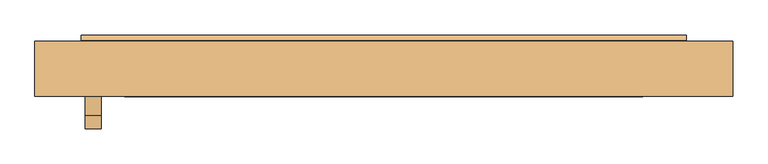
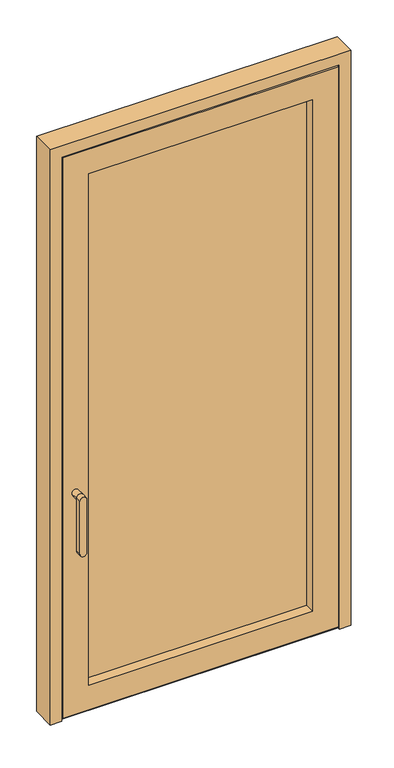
"""IFC4 building model written with IfcOpenShell, lengths in millimetres: door geometry, Jednokrilna vrata__ : Jednokrilna vrata__."""

from ifc_helpers import new_model, si_unit, frame, origin, place, context, project, spatial, polyline, circle_curve, outline, extrude, faceted_brep, source, transform, mapped, element, save
from ifc_brep_helpers import plane_surface, cylinder_surface, advanced_brep


def door_e021cbc1(model_context):
    return source(origin(), model_context, "Body", "SolidModel", [
        advanced_brep(
        [(-437.2528465, -74.992971, 860.1), (-462.2528465, -74.992971, 860.1), (-462.2528465, -74.992971, 660.1), (-437.2528465, -74.992971, 660.1), (-462.2528465, -54.992971, 860.1), (-437.2528465, -54.992971, 860.1), (-437.2528465, -54.992971, 660.1), (-462.2528465, -54.992971, 660.1), (-437.2528465, -24.992971, 860.1), (-462.2528465, -24.992971, 860.1)],
        [
            (0, 1, circle_curve(frame((-449.7528465, -74.992971, 860.1), z_axis=(0.0, -1.0, 0.0), x_axis=(-1.0, 0.0, 0.0)), 12.5)),
            (1, 2),
            (2, 3, circle_curve(frame((-449.7528465, -74.992971, 660.1), z_axis=(0.0, -1.0, 0.0), x_axis=(-1.0, 0.0, 0.0)), 12.5)),
            (3, 0),
            (4, 5, circle_curve(frame((-449.7528465, -54.992971, 860.1), z_axis=(0.0, -1.0, 0.0), x_axis=(-1.0, 0.0, 0.0)), 12.5)),
            (5, 6),
            (6, 7, circle_curve(frame((-449.7528465, -54.992971, 660.1), z_axis=(0.0, 1.0, 0.0), x_axis=(-1.0, 0.0, 0.0)), 12.5)),
            (7, 4),
            (3, 6),
            (5, 0),
            (2, 7),
            (1, 4),
            (5, 4, circle_curve(frame((-449.7528465, -54.992971, 860.1), z_axis=(0.0, -1.0, 0.0), x_axis=(-1.0, 0.0, 0.0)), 12.5)),
            (8, 9, circle_curve(frame((-449.7528465, -24.992971, 860.1), z_axis=(0.0, 1.0, 0.0), x_axis=(-1.0, 0.0, 0.0)), 12.5)),
            (9, 8, circle_curve(frame((-449.7528465, -24.992971, 860.1), z_axis=(0.0, 1.0, 0.0), x_axis=(-1.0, 0.0, 0.0)), 12.5)),
            (8, 5),
            (4, 9),
        ],
        [
            plane_surface(frame((-437.2528465, -74.992971, 860.1), z_axis=(0.0, -1.0, 0.0), x_axis=(0.0, 0.0, -1.0))),
            plane_surface(frame((-437.2528465, -54.992971, 860.1), z_axis=(0.0, 1.0, 0.0), x_axis=(0.0, 0.0, 1.0))),
            plane_surface(frame((-437.2528465, -74.992971, 860.1), z_axis=(1.0, 0.0, 0.0), x_axis=(0.0, 1.0, 0.0))),
            cylinder_surface(frame((-449.7528465, -54.992971, 660.1), z_axis=(0.0, -1.0, 0.0), x_axis=(-1.0, 0.0, 0.0)), 12.5),
            plane_surface(frame((-462.2528465, -74.992971, 660.1), z_axis=(-1.0, 0.0, 0.0), x_axis=(0.0, 1.0, 0.0))),
            cylinder_surface(frame((-449.7528465, -54.992971, 860.1), z_axis=(0.0, -1.0, 0.0), x_axis=(-1.0, 0.0, 0.0)), 12.5),
            plane_surface(frame((-462.2528465, -24.992971, 860.1), z_axis=(0.0, 1.0, 0.0), x_axis=(0.0, 0.0, -1.0))),
            cylinder_surface(frame((-449.7528465, -24.992971, 860.1), z_axis=(0.0, -1.0, 0.0), x_axis=(-1.0, 0.0, 0.0)), 12.5),
        ],
        [
            (0, [[1, 2, 3, 4]]),
            (1, [[5, 6, 7, 8]]),
            (2, [[9, -6, 10, -4]]),
            (3, [[11, -7, -9, -3]]),
            (4, [[12, -8, -11, -2]]),
            (5, [[-10, 13, -12, -1]]),
            (6, [[14, 15]]),
            (7, [[16, -5, 17, -14]]),
            (7, [[-17, -13, -16, -15]]),
        ],
    ),
        extrude(outline(polyline([(-416.0069224, 51.4963646), (416.0069224, 51.4963646), (416.0069224, 11.539569), (-416.0069224, 11.539569), (-416.0069224, 51.4963646)])), frame((0.0, 0.0, 97.4957057), z_axis=(0.0, 0.0, 1.0), x_axis=(1.0, 0.0, 0.0)), (0.0, 0.0, 1.0), 1968.5085885),
        faceted_brep([(416.0069224, 11.5325535, 2066.0069224), (416.0069224, 51.5325535, 2066.0069224), (416.0069224, 51.5325535, 97.4930776), (416.0069224, 11.5325535, 97.4930776), (-416.0069224, 51.5325535, 2066.0069224), (-416.0069224, 51.5325535, 97.4930776), (401.0069241, 51.5325535, 112.4930759), (-401.0069241, 51.5325535, 112.4930759), (-401.0069241, 51.5325535, 2051.0069241), (401.0069241, 51.5325535, 2051.0069241), (-416.0069224, 11.5325535, 97.4930776), (-416.0069224, 11.5325535, 2066.0069224), (401.0069179, 11.5325535, 2051.0069179), (-401.0069179, 11.5325535, 2051.0069179), (-401.0069179, 11.5325535, 112.4930821), (401.0069179, 11.5325535, 112.4930821), (478.6569229, 51.4963646, 34.8430771), (-478.6569229, 51.4963646, 34.8430771), (-478.6569229, 51.4963646, 2128.6569229), (478.6569229, 51.4963646, 2128.6569229), (468.5028465, 51.4963646, 2118.5028465), (-468.5028465, 51.4963646, 2118.5028465), (-468.5028465, 51.4963646, 44.9971535), (468.5028465, 51.4963646, 44.9971535), (478.6569229, -16.4988419, 2128.6569229), (478.6569229, -16.4988419, 34.8430771), (493.5028465, -16.4988419, 19.9971535), (-493.5028465, -16.4988419, 19.9971535), (-493.5028465, -16.4988419, 2143.5028465), (493.5028465, -16.4988419, 2143.5028465), (-478.6569229, -16.4988419, 2128.6569229), (-478.6569229, -16.4988419, 34.8430771), (493.5028465, -24.9999866, 2143.5028465), (493.5028465, -24.9999866, 19.9971535), (-493.5028465, -24.9999866, 2143.5028465), (-493.5028465, -24.9999866, 19.9971535), (401.0069179, -24.9999866, 112.4930821), (-401.0069179, -24.9999866, 112.4930821), (-401.0069179, -24.9999866, 2051.0069179), (401.0069179, -24.9999866, 2051.0069179), (468.5028465, 60.0, 44.9971535), (-468.5028465, 60.0, 44.9971535), (-468.5028465, 60.0, 2118.5028465), (468.5028465, 60.0, 2118.5028465), (401.0069241, 60.0, 2051.0069241), (-401.0069241, 60.0, 2051.0069241), (-401.0069241, 60.0, 112.4930759), (401.0069241, 60.0, 112.4930759)], [[[0, 1, 2, 3]], [[1, 4, 5, 2], [6, 7, 8, 9]], [[3, 2, 5, 10]], [[3, 10, 11, 0], [12, 13, 14, 15]], [[16, 17, 18, 19], [20, 21, 22, 23]], [[19, 24, 25, 16]], [[26, 27, 28, 29], [24, 30, 31, 25]], [[16, 25, 31, 17]], [[29, 32, 33, 26]], [[32, 34, 35, 33], [36, 37, 38, 39]], [[26, 33, 35, 27]], [[10, 5, 4, 11]], [[17, 31, 30, 18]], [[27, 35, 34, 28]], [[11, 4, 1, 0]], [[40, 41, 42, 43], [44, 45, 46, 47]], [[18, 30, 24, 19]], [[28, 34, 32, 29]], [[9, 44, 47, 6]], [[6, 47, 46, 7]], [[43, 20, 23, 40]], [[40, 23, 22, 41]], [[7, 46, 45, 8]], [[41, 22, 21, 42]], [[37, 14, 13, 38]], [[36, 15, 14, 37]], [[39, 12, 15, 36]], [[8, 45, 44, 9]], [[42, 21, 20, 43]], [[38, 13, 12, 39]]]),
        extrude(outline(polyline([(61.0518902, 43.8392915), (53.9268695, 43.8392915), (52.789569, 42.6978701), (52.789569, 33.5925953), (46.657463, 33.5925953), (47.6900084, 27.9186976), (45.1953852, 28.3686565), (41.785658, 28.6424177), (42.7195202, 33.5925953), (39.789569, 33.5925953), (39.789569, 34.8390008), (51.539569, 34.8390008), (51.539569, 44.9930771), (61.6167606, 44.9930771), (70.0932044, 35.9032041), (70.0932044, 33.876672), (68.5932044, 33.876672), (68.5932044, 35.7522222), (61.0518902, 43.8392915)])), frame((-468.5028465, 0.0, 0.0), z_axis=(1.0, 0.0, 0.0), x_axis=(0.0, 1.0, 0.0)), (0.0, 0.0, 1.0), 937.0056931),
        advanced_brep(
        [(-498.4976427, -16.4918976, 10.0), (-498.4976427, -24.992971, 10.0), (-540.0, -24.992971, 10.0), (-540.0, 60.0, 10.0), (540.0, 60.0, 10.0), (540.0, -24.992971, 10.0), (498.4976427, -24.992971, 10.0), (498.4976427, -16.4918976, 10.0), (-498.4976427, -16.4918976, 2148.4976427), (-498.4976427, -24.992971, 2148.4976427), (498.4976427, -24.992971, 2148.4976427), (540.0, -24.992971, 2190.0), (-540.0, -24.992971, 2190.0), (-540.0, 60.0, 2190.0), (540.0, 60.0, 2190.0), (-473.5002181, 60.0, 2123.5002181), (-473.5002181, 60.0, 25.6983046), (473.5002181, 60.0, 25.6983046), (473.5002181, 60.0, 2123.5002181), (498.4976427, -16.4918976, 2148.4976427), (488.997643, -16.4918976, 2138.997643), (488.997643, -16.4918976, 25.5020091), (-488.997643, -16.4918976, 25.5020091), (-488.997643, -16.4918976, 2138.997643), (-473.5002181, 51.503943, 2123.5002181), (473.5002181, 51.503943, 2123.5002181), (473.5002181, 51.503943, 27.2307511), (488.997643, 51.503943, 27.2307511), (488.997643, 51.503943, 2138.997643), (-488.997643, 51.503943, 2138.997643), (-488.997643, 51.503943, 27.2307511), (-473.5002181, 51.503943, 27.2307511), (-488.997643, 45.1457469, 28.3775885), (488.997643, 45.1457469, 28.3775885), (488.997643, 24.6553167, 30.02273), (488.997643, 22.841712, 29.5983726), (488.997643, 16.0923635, 25.5020091), (-488.997643, 16.0923635, 25.5020091), (-488.997643, 22.841712, 29.5983726), (-488.997643, 24.6553167, 30.02273)],
        [
            (0, 1),
            (1, 2),
            (2, 3),
            (3, 4),
            (4, 5),
            (5, 6),
            (6, 7),
            (7, 0),
            (0, 8),
            (8, 9),
            (9, 1),
            (9, 10),
            (10, 6),
            (5, 11),
            (11, 12),
            (12, 2),
            (13, 3),
            (12, 13),
            (13, 14),
            (14, 4),
            (15, 16),
            (16, 17),
            (17, 18),
            (18, 15),
            (14, 11),
            (10, 19),
            (19, 7),
            (19, 8),
            (20, 21),
            (21, 22),
            (22, 23),
            (23, 20),
            (24, 25),
            (25, 26),
            (26, 27),
            (27, 28),
            (28, 29),
            (29, 30),
            (30, 31),
            (31, 24),
            (25, 18),
            (17, 26),
            (16, 31),
            (30, 32),
            (32, 33),
            (33, 27),
            (20, 28),
            (33, 34),
            (34, 35, circle_curve(frame((488.997643, 24.3982423, 27.0337648), z_axis=(1.0, 0.0, 0.0), x_axis=(0.0, -0.5188434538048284, 0.8548692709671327)), 3.0)),
            (35, 36),
            (36, 21),
            (29, 23),
            (22, 37),
            (37, 38),
            (38, 39, circle_curve(frame((-488.997643, 24.3982423, 27.0337648), z_axis=(-1.0, 0.0, 0.0), x_axis=(0.0, -0.5188434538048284, 0.8548692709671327)), 3.0)),
            (39, 32),
            (15, 24),
            (36, 37),
            (35, 38),
            (34, 39),
        ],
        [
            plane_surface(frame((-540.0, -24.992971, 10.0), z_axis=(0.0, 0.0, -1.0), x_axis=(0.0, 1.0, 0.0))),
            plane_surface(frame((-498.4976427, -16.4918976, 10.0), z_axis=(1.0, 0.0, 0.0), x_axis=(0.0, 0.0, 1.0))),
            plane_surface(frame((-498.4976427, -24.992971, 10.0), z_axis=(0.0, -1.0, 0.0), x_axis=(0.0, 0.0, 1.0))),
            plane_surface(frame((-540.0, -24.992971, 10.0), z_axis=(-1.0, 0.0, 0.0), x_axis=(0.0, 0.0, 1.0))),
            plane_surface(frame((-540.0, 60.0, 10.0), z_axis=(0.0, 1.0, 0.0), x_axis=(0.0, 0.0, 1.0))),
            plane_surface(frame((540.0, -24.992971, 2190.0), z_axis=(1.0, 0.0, 0.0), x_axis=(0.0, 0.0, -1.0))),
            plane_surface(frame((498.4976427, -16.4918976, 2148.4976427), z_axis=(-1.0, 0.0, 0.0), x_axis=(0.0, 0.0, -1.0))),
            plane_surface(frame((-488.997643, -16.4918976, 10.0), z_axis=(0.0, -1.0, 0.0), x_axis=(0.0, 0.0, 1.0))),
            plane_surface(frame((-473.5002181, 51.503943, 10.0), z_axis=(0.0, -1.0, 0.0), x_axis=(0.0, 0.0, 1.0))),
            plane_surface(frame((473.5002181, 60.0, 2123.5002181), z_axis=(-1.0, 0.0, 0.0), x_axis=(0.0, 0.0, -1.0))),
            plane_surface(frame((-540.0, 45.1457469, 28.3775885), z_axis=(0.0, 0.17750711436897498, 0.9841195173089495), x_axis=(1.0, 0.0, 0.0))),
            plane_surface(frame((488.997643, 51.503943, 2138.997643), z_axis=(-1.0, 0.0, 0.0), x_axis=(0.0, 0.0, -1.0))),
            plane_surface(frame((-488.997643, 51.503943, 10.0), z_axis=(1.0, 0.0, 0.0), x_axis=(0.0, 0.0, 1.0))),
            plane_surface(frame((-473.5002181, 60.0, 10.0), z_axis=(1.0, 0.0, 0.0), x_axis=(0.0, 0.0, 1.0))),
            plane_surface(frame((-540.0, -16.5052758, 25.5020091), z_axis=(0.0, 0.0, 1.0), x_axis=(1.0, 0.0, 0.0))),
            plane_surface(frame((-540.0, 16.0923635, 25.5020091), z_axis=(0.0, -0.5188434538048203, 0.8548692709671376), x_axis=(1.0, 0.0, 0.0))),
            cylinder_surface(frame((-540.0, 24.3982423, 27.0337648), z_axis=(-1.0, 0.0, 0.0), x_axis=(0.0, -0.5188434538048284, 0.8548692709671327)), 3.0),
            plane_surface(frame((-540.0, 24.6553167, 30.02273), z_axis=(0.0, 0.08003075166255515, 0.9967923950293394), x_axis=(1.0, 0.0, 0.0))),
            plane_surface(frame((-473.5002181, 60.0, 2123.5002181), z_axis=(0.0, 0.0, -1.0), x_axis=(1.0, 0.0, 0.0))),
            plane_surface(frame((-540.0, -24.992971, 2190.0), z_axis=(0.0, 0.0, 1.0), x_axis=(1.0, 0.0, 0.0))),
            plane_surface(frame((-498.4976427, -16.4918976, 2148.4976427), z_axis=(0.0, 0.0, -1.0), x_axis=(1.0, 0.0, 0.0))),
            plane_surface(frame((-488.997643, 51.503943, 2138.997643), z_axis=(0.0, 0.0, -1.0), x_axis=(1.0, 0.0, 0.0))),
        ],
        [
            (0, [[1, 2, 3, 4, 5, 6, 7, 8]]),
            (1, [[-1, 9, 10, 11]]),
            (2, [[-2, -11, 12, 13, -6, 14, 15, 16]]),
            (3, [[17, -3, -16, 18]]),
            (4, [[-4, -17, 19, 20], [21, 22, 23, 24]]),
            (5, [[-14, -5, -20, 25]]),
            (6, [[-13, 26, 27, -7]]),
            (7, [[-8, -27, 28, -9], [29, 30, 31, 32]]),
            (8, [[33, 34, 35, 36, 37, 38, 39, 40]]),
            (9, [[41, -23, 42, -34]]),
            (10, [[-22, 43, -39, 44, 45, 46, -35, -42]]),
            (11, [[47, -36, -46, 48, 49, 50, 51, -29]]),
            (12, [[52, -31, 53, 54, 55, 56, -44, -38]]),
            (13, [[57, -40, -43, -21]]),
            (14, [[-30, -51, 58, -53]]),
            (15, [[59, -54, -58, -50]]),
            (16, [[-59, -49, 60, -55]]),
            (17, [[-45, -56, -60, -48]]),
            (18, [[-33, -57, -24, -41]]),
            (19, [[-19, -18, -15, -25]]),
            (20, [[-12, -10, -28, -26]]),
            (21, [[-37, -47, -32, -52]]),
        ],
    ),
    ])


if __name__ == "__main__":
    model = new_model("IFC4")
    model_context = context("Model", 3, world=origin())
    ifc_project = project(units=[si_unit("LENGTHUNIT", "METRE", prefix="MILLI")], contexts=[model_context])
    site = spatial("IfcSite", under=ifc_project)
    building = spatial("IfcBuilding", under=site)
    placement = place(None, origin())
    door_shape = door_e021cbc1(model_context)
    element("IfcDoor", 1, ObjectType="Jednokrilna vrata__ : Jednokrilna vrata__", at=placement, inside=building, context=model_context, shape_type="MappedRepresentation", body=[
        mapped(door_shape, transform((0.0, 0.0, 0.0), x_axis=(1.0, 0.0, 0.0), y_axis=(0.0, 1.0, 0.0), z_axis=(0.0, 0.0, 1.0))),
    ])
    save(model, "model.ifc")
